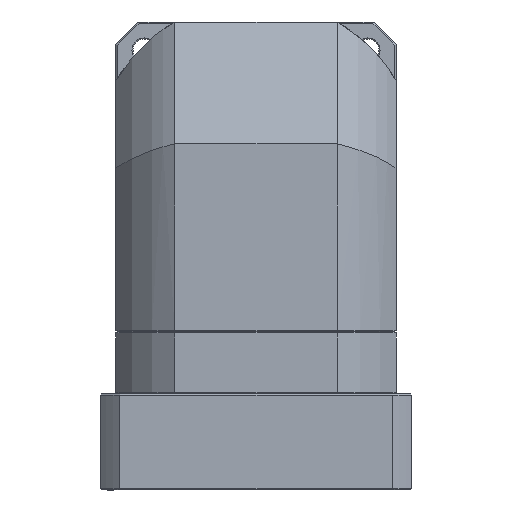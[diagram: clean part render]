
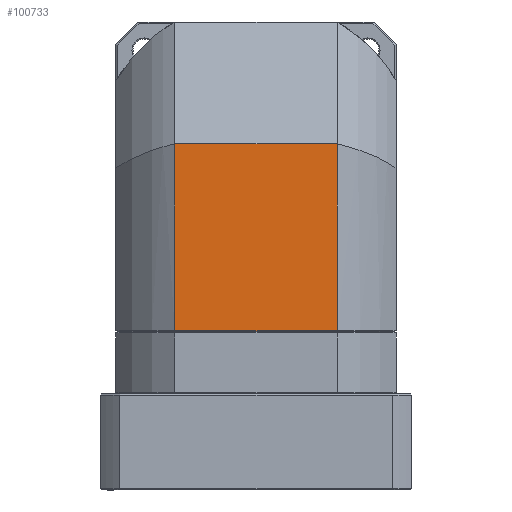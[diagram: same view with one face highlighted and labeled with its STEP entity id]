
A CAD part, front view. The second image highlights one B-rep face of the part: STEP entity #100733.
In plain terms, the highlighted planar face has unit normal (0, 1, 0).
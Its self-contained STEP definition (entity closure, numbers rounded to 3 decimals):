
#276 = ORIENTED_EDGE ( 'NONE', *, *, #35992, .F. ) ;
#732 = CARTESIAN_POINT ( 'NONE',  ( 33.407, -216.611, -30.85 ) ) ;
#5012 = CARTESIAN_POINT ( 'NONE',  ( -33.407, -216.611, 7.5 ) ) ;
#5758 = LINE ( 'NONE', #31657, #63451 ) ;
#10782 = EDGE_LOOP ( 'NONE', ( #276, #30831, #54399, #94578 ) ) ;
#14157 = CARTESIAN_POINT ( 'NONE',  ( -33.407, -216.611, -69.2 ) ) ;
#18050 = VECTOR ( 'NONE', #63515, 1000. ) ;
#18905 = VERTEX_POINT ( 'NONE', #73193 ) ;
#20504 = LINE ( 'NONE', #732, #18050 ) ;
#22039 = DIRECTION ( 'NONE',  ( 1., 0., 0. ) ) ;
#23197 = VERTEX_POINT ( 'NONE', #60895 ) ;
#23948 = AXIS2_PLACEMENT_3D ( 'NONE', #14157, #69142, #22039 ) ;
#24717 = FACE_OUTER_BOUND ( 'NONE', #10782, .T. ) ;
#26437 = DIRECTION ( 'NONE',  ( 1., 0., 0. ) ) ;
#27646 = VECTOR ( 'NONE', #101784, 1000. ) ;
#30831 = ORIENTED_EDGE ( 'NONE', *, *, #31595, .F. ) ;
#31483 = CARTESIAN_POINT ( 'NONE',  ( -33.407, -216.611, -30.62 ) ) ;
#31595 = EDGE_CURVE ( 'NONE', #18905, #23197, #40574, .T. ) ;
#31657 = CARTESIAN_POINT ( 'NONE',  ( 0., -216.611, 7.5 ) ) ;
#33205 = CARTESIAN_POINT ( 'NONE',  ( 33.407, -216.611, 7.5 ) ) ;
#33700 = EDGE_CURVE ( 'NONE', #54226, #61082, #5758, .T. ) ;
#35992 = EDGE_CURVE ( 'NONE', #23197, #61082, #20504, .T. ) ;
#40574 = LINE ( 'NONE', #73551, #82519 ) ;
#54226 = VERTEX_POINT ( 'NONE', #5012 ) ;
#54399 = ORIENTED_EDGE ( 'NONE', *, *, #70276, .T. ) ;
#60895 = CARTESIAN_POINT ( 'NONE',  ( 33.407, -216.611, -69.2 ) ) ;
#61082 = VERTEX_POINT ( 'NONE', #33205 ) ;
#63451 = VECTOR ( 'NONE', #70905, 1000. ) ;
#63515 = DIRECTION ( 'NONE',  ( 0., 0., 1. ) ) ;
#69142 = DIRECTION ( 'NONE',  ( 0., -1., 0. ) ) ;
#69523 = LINE ( 'NONE', #31483, #27646 ) ;
#70276 = EDGE_CURVE ( 'NONE', #18905, #54226, #69523, .T. ) ;
#70905 = DIRECTION ( 'NONE',  ( 1., 0., 0. ) ) ;
#73193 = CARTESIAN_POINT ( 'NONE',  ( -33.407, -216.611, -69.2 ) ) ;
#73551 = CARTESIAN_POINT ( 'NONE',  ( 0., -216.611, -69.2 ) ) ;
#76735 = PLANE ( 'NONE',  #23948 ) ;
#82519 = VECTOR ( 'NONE', #26437, 1000. ) ;
#94578 = ORIENTED_EDGE ( 'NONE', *, *, #33700, .T. ) ;
#100733 = ADVANCED_FACE ( 'NONE', ( #24717 ), #76735, .F. ) ;
#101784 = DIRECTION ( 'NONE',  ( 0., 0., 1. ) ) ;
